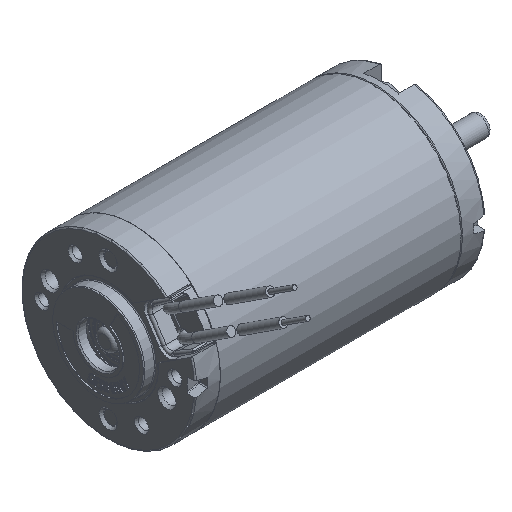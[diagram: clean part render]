
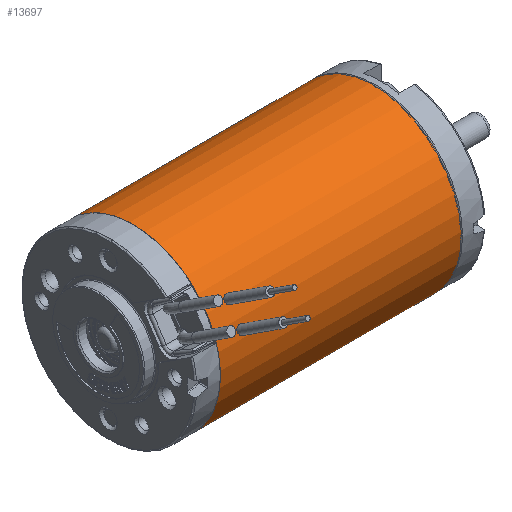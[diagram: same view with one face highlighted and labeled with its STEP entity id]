
A CAD part, isometric view. The second image highlights one B-rep face of the part: STEP entity #13697.
In plain terms, the highlighted cylindrical face has radius 21 mm (diameter 42 mm), a full revolution.
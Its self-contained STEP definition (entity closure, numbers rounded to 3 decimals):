
#13697=ADVANCED_FACE('',(#16486,#16487),#16058,.T.);
#16058=CYLINDRICAL_SURFACE('',#41411,21.);
#16486=FACE_BOUND('',#17293,.T.);
#16487=FACE_BOUND('',#17294,.T.);
#17293=EDGE_LOOP('',(#20204));
#17294=EDGE_LOOP('',(#20205));
#20204=ORIENTED_EDGE('',*,*,#34823,.T.);
#20205=ORIENTED_EDGE('',*,*,#34825,.T.);
#31177=VERTEX_POINT('',#56404);
#31179=VERTEX_POINT('',#56409);
#34823=EDGE_CURVE('',#31177,#31177,#40320,.T.);
#34825=EDGE_CURVE('',#31179,#31179,#40322,.T.);
#40320=CIRCLE('',#41406,21.);
#40322=CIRCLE('',#41409,21.);
#41406=AXIS2_PLACEMENT_3D('',#56403,#44894,#44895);
#41409=AXIS2_PLACEMENT_3D('',#56408,#44900,#44901);
#41411=AXIS2_PLACEMENT_3D('',#56411,#44904,#44905);
#44894=DIRECTION('',(1.,0.,0.));
#44895=DIRECTION('',(0.,-0.976,0.217));
#44900=DIRECTION('',(-1.,0.,0.));
#44901=DIRECTION('',(0.,0.976,-0.217));
#44904=DIRECTION('',(-1.,0.,0.));
#44905=DIRECTION('',(0.,0.976,-0.217));
#56403=CARTESIAN_POINT('',(-84.,0.,0.));
#56404=CARTESIAN_POINT('',(-84.,-20.498,4.564));
#56408=CARTESIAN_POINT('',(-26.,0.,0.));
#56409=CARTESIAN_POINT('',(-26.,20.498,-4.564));
#56411=CARTESIAN_POINT('',(-26.,0.,0.));
